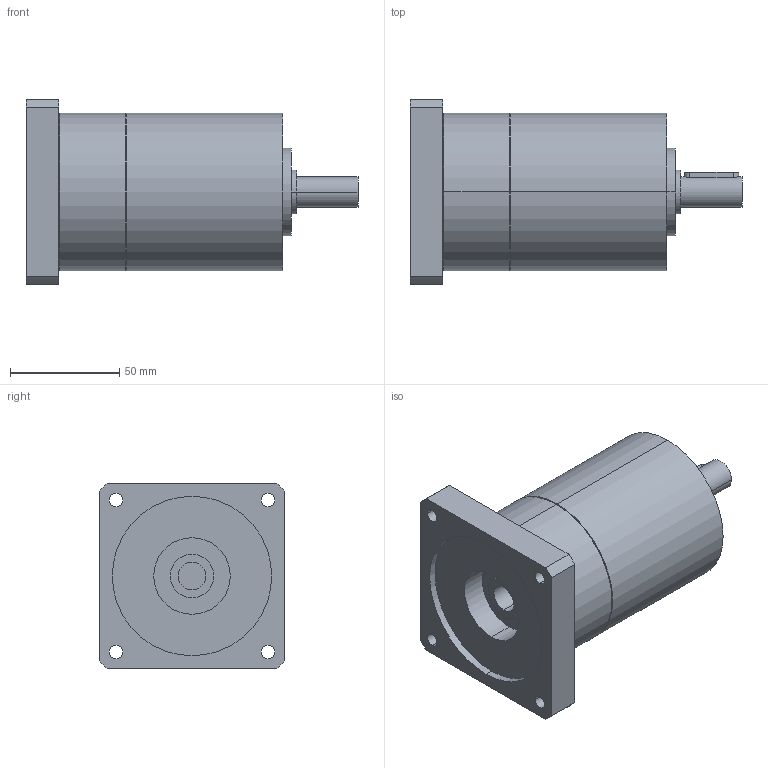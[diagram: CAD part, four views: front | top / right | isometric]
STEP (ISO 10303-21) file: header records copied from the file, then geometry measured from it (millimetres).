
FILE_DESCRIPTION(('CoCreate Modeling STEP Export'),'2;1');
FILE_NAME('GPT75_ig-9-12-16-20-25-28-35-40-50-70-100_14_B14T_12.7_P36.stp','2014-08-27T13:15:56',(''),(''),'CoCreate Modeling STEP processor for AP214 (Solid Model)','CoCreate Modeling 16.00C 25-Feb-2009 (C) Parametric Technology GmbH','');
FILE_SCHEMA(('AUTOMOTIVE_DESIGN { 1 0 10303 214 1 1 1 1 }'));
Length unit declared in the file: millimetre
Products named in the file (2): GPT75_ig-9-12-16-20-25-28-35-40-50-70-100_14_B14T_12.7_P36
Assembly tree (1 placements, depth 2):
  GPT75_ig-9-12-16-20-25-28-35-40-50-70-100_14_B14T_12.7_P36
    GPT75_ig-9-12-16-20-25-28-35-40-50-70-100_14_B14T_12.7_P36
Bounding box: 152 x 85 x 85 mm (x, y, z)
Volume: 504220.8 mm3; surface area: 50171.3 mm2
Topology: 1 solids, 1 shells, 69 faces, 166 edges, 113 vertices
Faces by surface type: cylinder 42, plane 23, cone 4
Entity records: 2161 total; most frequent: CARTESIAN_POINT 664, ORIENTED_EDGE 332, DIRECTION 262, EDGE_CURVE 166, VERTEX_POINT 113, AXIS2_PLACEMENT_3D 99, EDGE_LOOP 91, FACE_OUTER_BOUND 69
